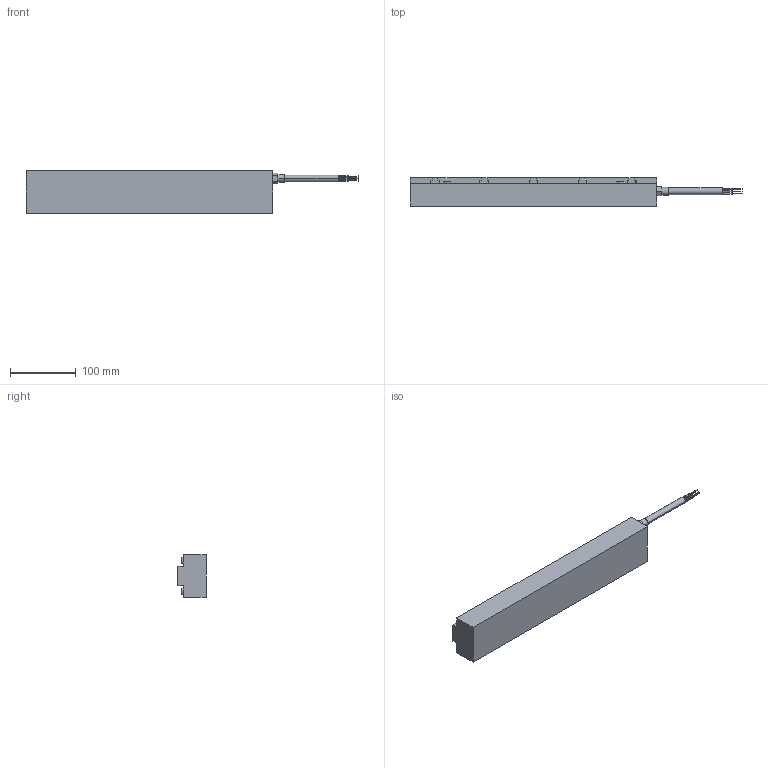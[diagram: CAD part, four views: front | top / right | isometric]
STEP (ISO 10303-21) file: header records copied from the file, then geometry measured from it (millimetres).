
FILE_DESCRIPTION((''),'2;1');
FILE_NAME('IC22_30','2010-03-09T',('brad.winesett'),('Kollmorgen'),'PRO/ENGINEER BY PARAMETRIC TECHNOLOGY CORPORATION, 2006510','PRO/ENGINEER BY PARAMETRIC TECHNOLOGY CORPORATION, 2006510','');
FILE_SCHEMA(('CONFIG_CONTROL_DESIGN'));
Length unit declared in the file: millimetre
Products named in the file (1): IC22_30
Bounding box: 506.2 x 43.3 x 65 mm (x, y, z)
Volume: 956522.1 mm3; surface area: 99412.8 mm2
Topology: 1 solids, 11 shells, 242 faces, 594 edges, 386 vertices
Faces by surface type: plane 138, cylinder 84, cone 20
Entity records: 7043 total; most frequent: DIRECTION 1248, CARTESIAN_POINT 1203, ORIENTED_EDGE 1108, EDGE_CURVE 574, AXIS2_PLACEMENT_3D 431, VECTOR 386, LINE 386, VERTEX_POINT 386
